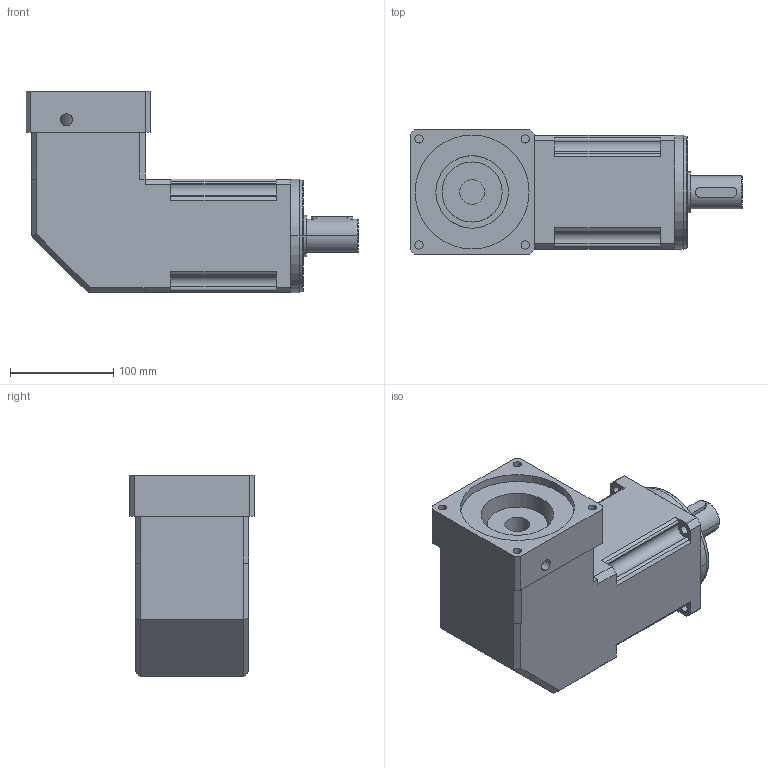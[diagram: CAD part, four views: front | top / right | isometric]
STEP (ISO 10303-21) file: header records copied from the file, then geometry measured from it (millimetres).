
FILE_DESCRIPTION (( 'STEP AP203' ), '1' );
FILE_NAME ('SVX-B115-50-24-110-145-笚粗牳.STEP', '2024-12-06T06:50:35', ( '' ), ( '' ), 'SwSTEP 2.0', 'SolidWorks 2018', '' );
FILE_SCHEMA (( 'CONFIG_CONTROL_DESIGN' ));
Length unit declared in the file: millimetre
Products named in the file (1): SVX-B115-50-24-110-145-笚粗牳
Bounding box: 320.8 x 120 x 195 mm (x, y, z)
Volume: 3850268 mm3; surface area: 198035.1 mm2
Topology: 1 solids, 1 shells, 138 faces, 347 edges, 223 vertices
Faces by surface type: cylinder 78, plane 54, cone 4, torus 2
Entity records: 4538 total; most frequent: CARTESIAN_POINT 995, DIRECTION 779, ORIENTED_EDGE 690, EDGE_CURVE 345, AXIS2_PLACEMENT_3D 299, VERTEX_POINT 223, LINE 181, VECTOR 181
